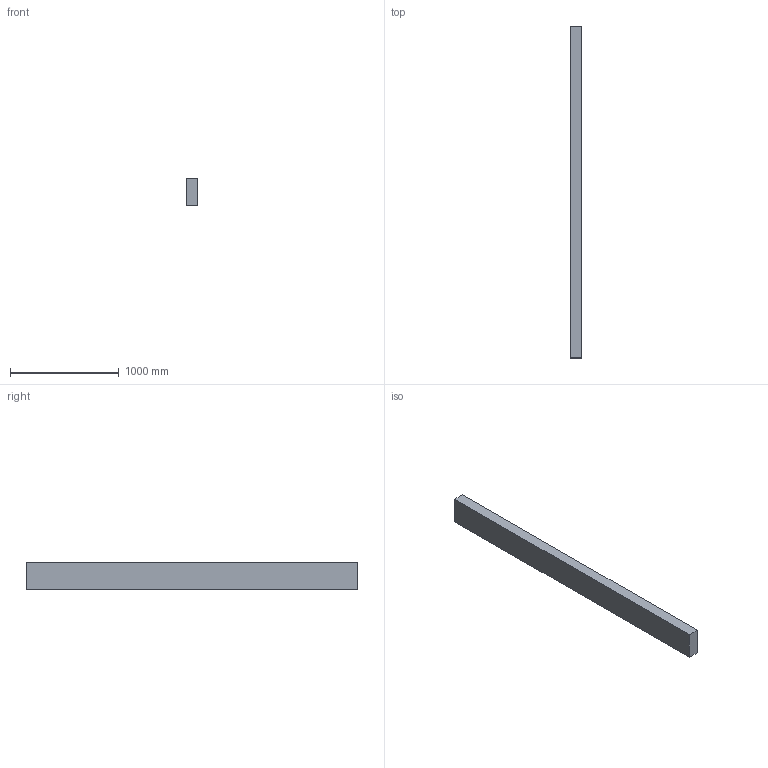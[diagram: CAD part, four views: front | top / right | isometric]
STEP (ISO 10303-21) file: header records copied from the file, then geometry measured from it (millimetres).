
FILE_DESCRIPTION(/* description */ (''),/* implementation_level */ '2;1');
FILE_NAME(/* name */ '4x10x120',/* time_stamp */ '2024-09-20T11:46:00-05:00',/* author */ (''),/* organization */ (''),/* preprocessor_version */ 'ST-DEVELOPER v19.2',/* originating_system */ 'Rhino 8.5',/* authorisation */ '');
FILE_SCHEMA (('CONFIG_CONTROL_DESIGN'));
Length unit declared in the file: inch
Products named in the file (1): Document
Bounding box: 101.6 x 3048 x 254 mm (x, y, z)
Volume: 78657907.2 mm3; surface area: 2219350.4 mm2
Topology: 1 solids, 1 shells, 6 faces, 12 edges, 8 vertices
Faces by surface type: plane 6
Entity records: 226 total; most frequent: CARTESIAN_POINT 40, ORIENTED_EDGE 24, EDGE_CURVE 12, B_SPLINE_CURVE_WITH_KNOTS 12, DIRECTION 10, VERTEX_POINT 8, AXIS2_PLACEMENT_3D 8, ORGANIZATION 7
